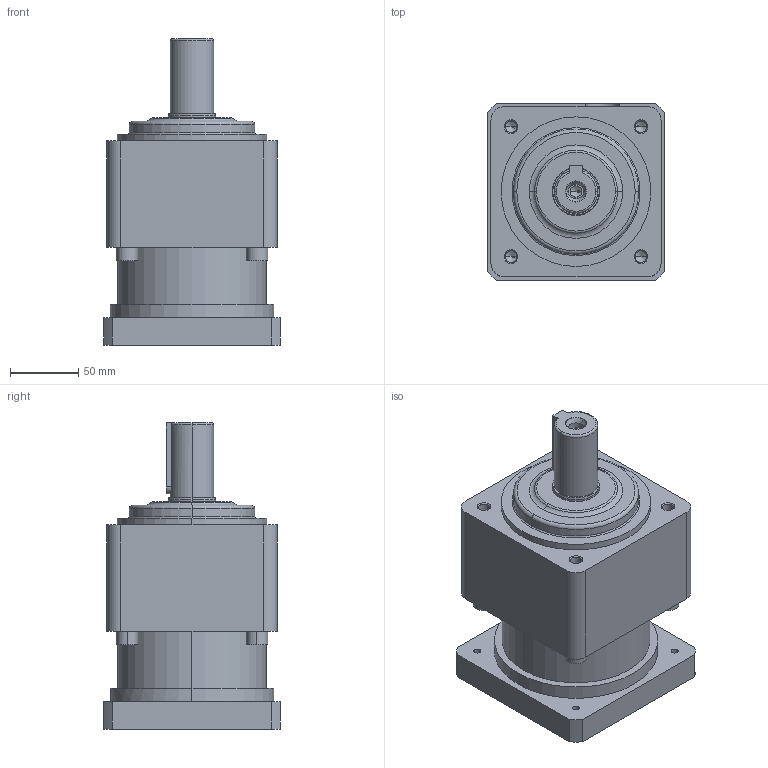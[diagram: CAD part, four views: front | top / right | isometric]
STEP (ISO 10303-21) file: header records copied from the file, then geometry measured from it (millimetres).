
FILE_DESCRIPTION (( 'STEP AP203' ), '1' );
FILE_NAME ('125ZDR3-5000T1.STEP', '2018-07-14T02:43:02', ( 'Windows User' ), ( 'P R C' ), 'SwSTEP 2.0', 'SolidWorks 2019', '' );
FILE_SCHEMA (( 'CONFIG_CONTROL_DESIGN' ));
Length unit declared in the file: millimetre
Products named in the file (1): 125ZDR3-5000T1
Bounding box: 130 x 130 x 225 mm (x, y, z)
Volume: 2089428.3 mm3; surface area: 146143.1 mm2
Topology: 1 solids, 1 shells, 137 faces, 320 edges, 195 vertices
Faces by surface type: cylinder 63, cone 32, plane 31, torus 11
Entity records: 4136 total; most frequent: CARTESIAN_POINT 828, DIRECTION 745, ORIENTED_EDGE 620, EDGE_CURVE 310, AXIS2_PLACEMENT_3D 306, VERTEX_POINT 195, CIRCLE 168, EDGE_LOOP 167
